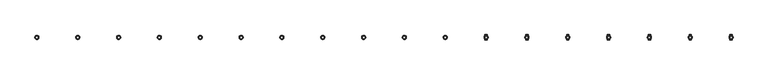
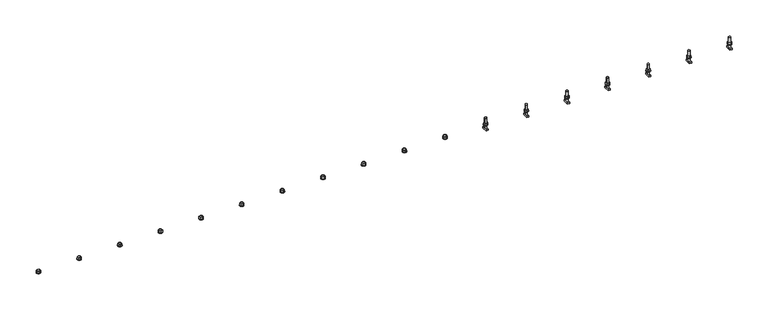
"""IFC4 building model written with IfcOpenShell, lengths in millimetres: fastener geometry, JTA-W JORDAHL® AnchorChannels : JTA-W L=6000 mm."""

from ifc_helpers import new_model, si_unit, point, frame, frame_2d, origin, place, context, project, spatial, polyline, circle_curve, trimmed, segment, composite_curve, outline, extrude, source, transform, mapped, element, save
from ifc_brep_helpers import plane_surface, cylinder_surface, advanced_brep


def fastener_eb7ec72f(model_context):
    return source(origin(), model_context, "Body", "SolidModel", [
        extrude(outline(polyline([(5617.1052632, -13.8564065), (5605.1052632, -6.9282032), (5605.1052632, 6.9282032), (5617.1052632, 13.8564065), (5629.1052632, 6.9282032), (5629.1052632, -6.9282032), (5617.1052632, -13.8564065)]), holes=[composite_curve([segment(trimmed(circle_curve(frame_2d((5617.1052632, 0.0)), 8.0), [point((5609.1052632, 0.0))], [point((5625.1052632, 0.0))], True, "CARTESIAN"), True, "CONTINUOUS"), segment(trimmed(circle_curve(frame_2d((5617.1052632, 0.0)), 8.0), [point((5625.1052632, 0.0))], [point((5609.1052632, 0.0))], True, "CARTESIAN"), True, "CONTINUOUS")], self_intersect=False)]), frame((0.0, 0.0, 18.0), z_axis=(0.0, 0.0, 1.0), x_axis=(1.0, 0.0, 0.0)), (0.0, 0.0, 1.0), 14.8),
        extrude(outline(composite_curve([segment(trimmed(circle_curve(frame_2d((5617.1052632, 0.0)), 15.0), [point((5602.1052632, 0.0))], [point((5632.1052632, 0.0))], False, "CARTESIAN"), True, "CONTINUOUS"), segment(trimmed(circle_curve(frame_2d((5617.1052632, 0.0)), 15.0), [point((5632.1052632, 0.0))], [point((5602.1052632, 0.0))], False, "CARTESIAN"), True, "CONTINUOUS")], self_intersect=False), holes=[composite_curve([segment(trimmed(circle_curve(frame_2d((5617.1052632, 0.0)), 8.5), [point((5608.6052632, 0.0))], [point((5625.6052632, 0.0))], True, "CARTESIAN"), True, "CONTINUOUS"), segment(trimmed(circle_curve(frame_2d((5617.1052632, 0.0)), 8.5), [point((5625.6052632, 0.0))], [point((5608.6052632, 0.0))], True, "CARTESIAN"), True, "CONTINUOUS")], self_intersect=False)]), frame((0.0, 0.0, 15.0), z_axis=(0.0, 0.0, 1.0), x_axis=(1.0, 0.0, 0.0)), (0.0, 0.0, 1.0), 3.0),
        extrude(outline(polyline([(5309.2105263, -13.8564065), (5297.2105263, -6.9282032), (5297.2105263, 6.9282032), (5309.2105263, 13.8564065), (5321.2105263, 6.9282032), (5321.2105263, -6.9282032), (5309.2105263, -13.8564065)]), holes=[composite_curve([segment(trimmed(circle_curve(frame_2d((5309.2105263, 0.0)), 8.0), [point((5301.2105263, 0.0))], [point((5317.2105263, 0.0))], True, "CARTESIAN"), True, "CONTINUOUS"), segment(trimmed(circle_curve(frame_2d((5309.2105263, 0.0)), 8.0), [point((5317.2105263, 0.0))], [point((5301.2105263, 0.0))], True, "CARTESIAN"), True, "CONTINUOUS")], self_intersect=False)]), frame((0.0, 0.0, 18.0), z_axis=(0.0, 0.0, 1.0), x_axis=(1.0, 0.0, 0.0)), (0.0, 0.0, 1.0), 14.8),
        extrude(outline(composite_curve([segment(trimmed(circle_curve(frame_2d((5309.2105263, 0.0)), 15.0), [point((5294.2105263, 0.0))], [point((5324.2105263, 0.0))], False, "CARTESIAN"), True, "CONTINUOUS"), segment(trimmed(circle_curve(frame_2d((5309.2105263, 0.0)), 15.0), [point((5324.2105263, 0.0))], [point((5294.2105263, 0.0))], False, "CARTESIAN"), True, "CONTINUOUS")], self_intersect=False), holes=[composite_curve([segment(trimmed(circle_curve(frame_2d((5309.2105263, 0.0)), 8.5), [point((5300.7105263, 0.0))], [point((5317.7105263, 0.0))], True, "CARTESIAN"), True, "CONTINUOUS"), segment(trimmed(circle_curve(frame_2d((5309.2105263, 0.0)), 8.5), [point((5317.7105263, 0.0))], [point((5300.7105263, 0.0))], True, "CARTESIAN"), True, "CONTINUOUS")], self_intersect=False)]), frame((0.0, 0.0, 15.0), z_axis=(0.0, 0.0, 1.0), x_axis=(1.0, 0.0, 0.0)), (0.0, 0.0, 1.0), 3.0),
        extrude(outline(polyline([(5001.3157895, -13.8564065), (4989.3157895, -6.9282032), (4989.3157895, 6.9282032), (5001.3157895, 13.8564065), (5013.3157895, 6.9282032), (5013.3157895, -6.9282032), (5001.3157895, -13.8564065)]), holes=[composite_curve([segment(trimmed(circle_curve(frame_2d((5001.3157895, 0.0)), 8.0), [point((4993.3157895, 0.0))], [point((5009.3157895, 0.0))], True, "CARTESIAN"), True, "CONTINUOUS"), segment(trimmed(circle_curve(frame_2d((5001.3157895, 0.0)), 8.0), [point((5009.3157895, 0.0))], [point((4993.3157895, 0.0))], True, "CARTESIAN"), True, "CONTINUOUS")], self_intersect=False)]), frame((0.0, 0.0, 18.0), z_axis=(0.0, 0.0, 1.0), x_axis=(1.0, 0.0, 0.0)), (0.0, 0.0, 1.0), 14.8),
        extrude(outline(composite_curve([segment(trimmed(circle_curve(frame_2d((5001.3157895, 0.0)), 15.0), [point((4986.3157895, 0.0))], [point((5016.3157895, 0.0))], False, "CARTESIAN"), True, "CONTINUOUS"), segment(trimmed(circle_curve(frame_2d((5001.3157895, 0.0)), 15.0), [point((5016.3157895, 0.0))], [point((4986.3157895, 0.0))], False, "CARTESIAN"), True, "CONTINUOUS")], self_intersect=False), holes=[composite_curve([segment(trimmed(circle_curve(frame_2d((5001.3157895, 0.0)), 8.5), [point((4992.8157895, 0.0))], [point((5009.8157895, 0.0))], True, "CARTESIAN"), True, "CONTINUOUS"), segment(trimmed(circle_curve(frame_2d((5001.3157895, 0.0)), 8.5), [point((5009.8157895, 0.0))], [point((4992.8157895, 0.0))], True, "CARTESIAN"), True, "CONTINUOUS")], self_intersect=False)]), frame((0.0, 0.0, 15.0), z_axis=(0.0, 0.0, 1.0), x_axis=(1.0, 0.0, 0.0)), (0.0, 0.0, 1.0), 3.0),
        extrude(outline(polyline([(4693.4210526, -13.8564065), (4681.4210526, -6.9282032), (4681.4210526, 6.9282032), (4693.4210526, 13.8564065), (4705.4210526, 6.9282032), (4705.4210526, -6.9282032), (4693.4210526, -13.8564065)]), holes=[composite_curve([segment(trimmed(circle_curve(frame_2d((4693.4210526, 0.0)), 8.0), [point((4685.4210526, 0.0))], [point((4701.4210526, 0.0))], True, "CARTESIAN"), True, "CONTINUOUS"), segment(trimmed(circle_curve(frame_2d((4693.4210526, 0.0)), 8.0), [point((4701.4210526, 0.0))], [point((4685.4210526, 0.0))], True, "CARTESIAN"), True, "CONTINUOUS")], self_intersect=False)]), frame((0.0, 0.0, 18.0), z_axis=(0.0, 0.0, 1.0), x_axis=(1.0, 0.0, 0.0)), (0.0, 0.0, 1.0), 14.8),
        extrude(outline(composite_curve([segment(trimmed(circle_curve(frame_2d((4693.4210526, 0.0)), 15.0), [point((4678.4210526, 0.0))], [point((4708.4210526, 0.0))], False, "CARTESIAN"), True, "CONTINUOUS"), segment(trimmed(circle_curve(frame_2d((4693.4210526, 0.0)), 15.0), [point((4708.4210526, 0.0))], [point((4678.4210526, 0.0))], False, "CARTESIAN"), True, "CONTINUOUS")], self_intersect=False), holes=[composite_curve([segment(trimmed(circle_curve(frame_2d((4693.4210526, 0.0)), 8.5), [point((4684.9210526, 0.0))], [point((4701.9210526, 0.0))], True, "CARTESIAN"), True, "CONTINUOUS"), segment(trimmed(circle_curve(frame_2d((4693.4210526, 0.0)), 8.5), [point((4701.9210526, 0.0))], [point((4684.9210526, 0.0))], True, "CARTESIAN"), True, "CONTINUOUS")], self_intersect=False)]), frame((0.0, 0.0, 15.0), z_axis=(0.0, 0.0, 1.0), x_axis=(1.0, 0.0, 0.0)), (0.0, 0.0, 1.0), 3.0),
        extrude(outline(polyline([(4385.5263158, -13.8564065), (4373.5263158, -6.9282032), (4373.5263158, 6.9282032), (4385.5263158, 13.8564065), (4397.5263158, 6.9282032), (4397.5263158, -6.9282032), (4385.5263158, -13.8564065)]), holes=[composite_curve([segment(trimmed(circle_curve(frame_2d((4385.5263158, 0.0)), 8.0), [point((4377.5263158, 0.0))], [point((4393.5263158, 0.0))], True, "CARTESIAN"), True, "CONTINUOUS"), segment(trimmed(circle_curve(frame_2d((4385.5263158, 0.0)), 8.0), [point((4393.5263158, 0.0))], [point((4377.5263158, 0.0))], True, "CARTESIAN"), True, "CONTINUOUS")], self_intersect=False)]), frame((0.0, 0.0, 18.0), z_axis=(0.0, 0.0, 1.0), x_axis=(1.0, 0.0, 0.0)), (0.0, 0.0, 1.0), 14.8),
        extrude(outline(composite_curve([segment(trimmed(circle_curve(frame_2d((4385.5263158, 0.0)), 15.0), [point((4370.5263158, 0.0))], [point((4400.5263158, 0.0))], False, "CARTESIAN"), True, "CONTINUOUS"), segment(trimmed(circle_curve(frame_2d((4385.5263158, 0.0)), 15.0), [point((4400.5263158, 0.0))], [point((4370.5263158, 0.0))], False, "CARTESIAN"), True, "CONTINUOUS")], self_intersect=False), holes=[composite_curve([segment(trimmed(circle_curve(frame_2d((4385.5263158, 0.0)), 8.5), [point((4377.0263158, 0.0))], [point((4394.0263158, 0.0))], True, "CARTESIAN"), True, "CONTINUOUS"), segment(trimmed(circle_curve(frame_2d((4385.5263158, 0.0)), 8.5), [point((4394.0263158, 0.0))], [point((4377.0263158, 0.0))], True, "CARTESIAN"), True, "CONTINUOUS")], self_intersect=False)]), frame((0.0, 0.0, 15.0), z_axis=(0.0, 0.0, 1.0), x_axis=(1.0, 0.0, 0.0)), (0.0, 0.0, 1.0), 3.0),
        extrude(outline(polyline([(4077.6315789, -13.8564065), (4065.6315789, -6.9282032), (4065.6315789, 6.9282032), (4077.6315789, 13.8564065), (4089.6315789, 6.9282032), (4089.6315789, -6.9282032), (4077.6315789, -13.8564065)]), holes=[composite_curve([segment(trimmed(circle_curve(frame_2d((4077.6315789, 0.0)), 8.0), [point((4069.6315789, 0.0))], [point((4085.6315789, 0.0))], True, "CARTESIAN"), True, "CONTINUOUS"), segment(trimmed(circle_curve(frame_2d((4077.6315789, 0.0)), 8.0), [point((4085.6315789, 0.0))], [point((4069.6315789, 0.0))], True, "CARTESIAN"), True, "CONTINUOUS")], self_intersect=False)]), frame((0.0, 0.0, 18.0), z_axis=(0.0, 0.0, 1.0), x_axis=(1.0, 0.0, 0.0)), (0.0, 0.0, 1.0), 14.8),
        extrude(outline(composite_curve([segment(trimmed(circle_curve(frame_2d((4077.6315789, 0.0)), 15.0), [point((4062.6315789, 0.0))], [point((4092.6315789, 0.0))], False, "CARTESIAN"), True, "CONTINUOUS"), segment(trimmed(circle_curve(frame_2d((4077.6315789, 0.0)), 15.0), [point((4092.6315789, 0.0))], [point((4062.6315789, 0.0))], False, "CARTESIAN"), True, "CONTINUOUS")], self_intersect=False), holes=[composite_curve([segment(trimmed(circle_curve(frame_2d((4077.6315789, 0.0)), 8.5), [point((4069.1315789, 0.0))], [point((4086.1315789, 0.0))], True, "CARTESIAN"), True, "CONTINUOUS"), segment(trimmed(circle_curve(frame_2d((4077.6315789, 0.0)), 8.5), [point((4086.1315789, 0.0))], [point((4069.1315789, 0.0))], True, "CARTESIAN"), True, "CONTINUOUS")], self_intersect=False)]), frame((0.0, 0.0, 15.0), z_axis=(0.0, 0.0, 1.0), x_axis=(1.0, 0.0, 0.0)), (0.0, 0.0, 1.0), 3.0),
        extrude(outline(polyline([(3769.7368421, -13.8564065), (3757.7368421, -6.9282032), (3757.7368421, 6.9282032), (3769.7368421, 13.8564065), (3781.7368421, 6.9282032), (3781.7368421, -6.9282032), (3769.7368421, -13.8564065)]), holes=[composite_curve([segment(trimmed(circle_curve(frame_2d((3769.7368421, 0.0)), 8.0), [point((3761.7368421, 0.0))], [point((3777.7368421, 0.0))], True, "CARTESIAN"), True, "CONTINUOUS"), segment(trimmed(circle_curve(frame_2d((3769.7368421, 0.0)), 8.0), [point((3777.7368421, 0.0))], [point((3761.7368421, 0.0))], True, "CARTESIAN"), True, "CONTINUOUS")], self_intersect=False)]), frame((0.0, 0.0, 18.0), z_axis=(0.0, 0.0, 1.0), x_axis=(1.0, 0.0, 0.0)), (0.0, 0.0, 1.0), 14.8),
        extrude(outline(composite_curve([segment(trimmed(circle_curve(frame_2d((3769.7368421, 0.0)), 15.0), [point((3754.7368421, 0.0))], [point((3784.7368421, 0.0))], False, "CARTESIAN"), True, "CONTINUOUS"), segment(trimmed(circle_curve(frame_2d((3769.7368421, 0.0)), 15.0), [point((3784.7368421, 0.0))], [point((3754.7368421, 0.0))], False, "CARTESIAN"), True, "CONTINUOUS")], self_intersect=False), holes=[composite_curve([segment(trimmed(circle_curve(frame_2d((3769.7368421, 0.0)), 8.5), [point((3761.2368421, 0.0))], [point((3778.2368421, 0.0))], True, "CARTESIAN"), True, "CONTINUOUS"), segment(trimmed(circle_curve(frame_2d((3769.7368421, 0.0)), 8.5), [point((3778.2368421, 0.0))], [point((3761.2368421, 0.0))], True, "CARTESIAN"), True, "CONTINUOUS")], self_intersect=False)]), frame((0.0, 0.0, 15.0), z_axis=(0.0, 0.0, 1.0), x_axis=(1.0, 0.0, 0.0)), (0.0, 0.0, 1.0), 3.0),
        extrude(outline(polyline([(3461.8421053, -13.8564065), (3449.8421053, -6.9282032), (3449.8421053, 6.9282032), (3461.8421053, 13.8564065), (3473.8421053, 6.9282032), (3473.8421053, -6.9282032), (3461.8421053, -13.8564065)]), holes=[composite_curve([segment(trimmed(circle_curve(frame_2d((3461.8421053, 0.0)), 8.0), [point((3453.8421053, 0.0))], [point((3469.8421053, 0.0))], True, "CARTESIAN"), True, "CONTINUOUS"), segment(trimmed(circle_curve(frame_2d((3461.8421053, 0.0)), 8.0), [point((3469.8421053, 0.0))], [point((3453.8421053, 0.0))], True, "CARTESIAN"), True, "CONTINUOUS")], self_intersect=False)]), frame((0.0, 0.0, 18.0), z_axis=(0.0, 0.0, 1.0), x_axis=(1.0, 0.0, 0.0)), (0.0, 0.0, 1.0), 14.8),
        extrude(outline(composite_curve([segment(trimmed(circle_curve(frame_2d((3461.8421053, 0.0)), 15.0), [point((3446.8421053, 0.0))], [point((3476.8421053, 0.0))], False, "CARTESIAN"), True, "CONTINUOUS"), segment(trimmed(circle_curve(frame_2d((3461.8421053, 0.0)), 15.0), [point((3476.8421053, 0.0))], [point((3446.8421053, 0.0))], False, "CARTESIAN"), True, "CONTINUOUS")], self_intersect=False), holes=[composite_curve([segment(trimmed(circle_curve(frame_2d((3461.8421053, 0.0)), 8.5), [point((3453.3421053, 0.0))], [point((3470.3421053, 0.0))], True, "CARTESIAN"), True, "CONTINUOUS"), segment(trimmed(circle_curve(frame_2d((3461.8421053, 0.0)), 8.5), [point((3470.3421053, 0.0))], [point((3453.3421053, 0.0))], True, "CARTESIAN"), True, "CONTINUOUS")], self_intersect=False)]), frame((0.0, 0.0, 15.0), z_axis=(0.0, 0.0, 1.0), x_axis=(1.0, 0.0, 0.0)), (0.0, 0.0, 1.0), 3.0),
        extrude(outline(polyline([(3153.9473684, -13.8564065), (3141.9473684, -6.9282032), (3141.9473684, 6.9282032), (3153.9473684, 13.8564065), (3165.9473684, 6.9282032), (3165.9473684, -6.9282032), (3153.9473684, -13.8564065)]), holes=[composite_curve([segment(trimmed(circle_curve(frame_2d((3153.9473684, 0.0)), 8.0), [point((3145.9473684, 0.0))], [point((3161.9473684, 0.0))], True, "CARTESIAN"), True, "CONTINUOUS"), segment(trimmed(circle_curve(frame_2d((3153.9473684, 0.0)), 8.0), [point((3161.9473684, 0.0))], [point((3145.9473684, 0.0))], True, "CARTESIAN"), True, "CONTINUOUS")], self_intersect=False)]), frame((0.0, 0.0, 18.0), z_axis=(0.0, 0.0, 1.0), x_axis=(1.0, 0.0, 0.0)), (0.0, 0.0, 1.0), 14.8),
        extrude(outline(composite_curve([segment(trimmed(circle_curve(frame_2d((3153.9473684, 0.0)), 15.0), [point((3138.9473684, 0.0))], [point((3168.9473684, 0.0))], False, "CARTESIAN"), True, "CONTINUOUS"), segment(trimmed(circle_curve(frame_2d((3153.9473684, 0.0)), 15.0), [point((3168.9473684, 0.0))], [point((3138.9473684, 0.0))], False, "CARTESIAN"), True, "CONTINUOUS")], self_intersect=False), holes=[composite_curve([segment(trimmed(circle_curve(frame_2d((3153.9473684, 0.0)), 8.5), [point((3145.4473684, 0.0))], [point((3162.4473684, 0.0))], True, "CARTESIAN"), True, "CONTINUOUS"), segment(trimmed(circle_curve(frame_2d((3153.9473684, 0.0)), 8.5), [point((3162.4473684, 0.0))], [point((3145.4473684, 0.0))], True, "CARTESIAN"), True, "CONTINUOUS")], self_intersect=False)]), frame((0.0, 0.0, 15.0), z_axis=(0.0, 0.0, 1.0), x_axis=(1.0, 0.0, 0.0)), (0.0, 0.0, 1.0), 3.0),
        extrude(outline(polyline([(2846.0526316, -13.8564065), (2834.0526316, -6.9282032), (2834.0526316, 6.9282032), (2846.0526316, 13.8564065), (2858.0526316, 6.9282032), (2858.0526316, -6.9282032), (2846.0526316, -13.8564065)]), holes=[composite_curve([segment(trimmed(circle_curve(frame_2d((2846.0526316, 0.0)), 8.0), [point((2838.0526316, 0.0))], [point((2854.0526316, 0.0))], True, "CARTESIAN"), True, "CONTINUOUS"), segment(trimmed(circle_curve(frame_2d((2846.0526316, 0.0)), 8.0), [point((2854.0526316, 0.0))], [point((2838.0526316, 0.0))], True, "CARTESIAN"), True, "CONTINUOUS")], self_intersect=False)]), frame((0.0, 0.0, 18.0), z_axis=(0.0, 0.0, 1.0), x_axis=(1.0, 0.0, 0.0)), (0.0, 0.0, 1.0), 14.8),
        extrude(outline(composite_curve([segment(trimmed(circle_curve(frame_2d((2846.0526316, 0.0)), 15.0), [point((2831.0526316, 0.0))], [point((2861.0526316, 0.0))], False, "CARTESIAN"), True, "CONTINUOUS"), segment(trimmed(circle_curve(frame_2d((2846.0526316, 0.0)), 15.0), [point((2861.0526316, 0.0))], [point((2831.0526316, 0.0))], False, "CARTESIAN"), True, "CONTINUOUS")], self_intersect=False), holes=[composite_curve([segment(trimmed(circle_curve(frame_2d((2846.0526316, 0.0)), 8.5), [point((2837.5526316, 0.0))], [point((2854.5526316, 0.0))], True, "CARTESIAN"), True, "CONTINUOUS"), segment(trimmed(circle_curve(frame_2d((2846.0526316, 0.0)), 8.5), [point((2854.5526316, 0.0))], [point((2837.5526316, 0.0))], True, "CARTESIAN"), True, "CONTINUOUS")], self_intersect=False)]), frame((0.0, 0.0, 15.0), z_axis=(0.0, 0.0, 1.0), x_axis=(1.0, 0.0, 0.0)), (0.0, 0.0, 1.0), 3.0),
        extrude(outline(polyline([(2538.1578947, -13.8564065), (2526.1578947, -6.9282032), (2526.1578947, 6.9282032), (2538.1578947, 13.8564065), (2550.1578947, 6.9282032), (2550.1578947, -6.9282032), (2538.1578947, -13.8564065)]), holes=[composite_curve([segment(trimmed(circle_curve(frame_2d((2538.1578947, 0.0)), 8.0), [point((2530.1578947, 0.0))], [point((2546.1578947, 0.0))], True, "CARTESIAN"), True, "CONTINUOUS"), segment(trimmed(circle_curve(frame_2d((2538.1578947, 0.0)), 8.0), [point((2546.1578947, 0.0))], [point((2530.1578947, 0.0))], True, "CARTESIAN"), True, "CONTINUOUS")], self_intersect=False)]), frame((0.0, 0.0, 18.0), z_axis=(0.0, 0.0, 1.0), x_axis=(1.0, 0.0, 0.0)), (0.0, 0.0, 1.0), 14.8),
        extrude(outline(composite_curve([segment(trimmed(circle_curve(frame_2d((2538.1578947, 0.0)), 15.0), [point((2523.1578947, 0.0))], [point((2553.1578947, 0.0))], False, "CARTESIAN"), True, "CONTINUOUS"), segment(trimmed(circle_curve(frame_2d((2538.1578947, 0.0)), 15.0), [point((2553.1578947, 0.0))], [point((2523.1578947, 0.0))], False, "CARTESIAN"), True, "CONTINUOUS")], self_intersect=False), holes=[composite_curve([segment(trimmed(circle_curve(frame_2d((2538.1578947, 0.0)), 8.5), [point((2529.6578947, 0.0))], [point((2546.6578947, 0.0))], True, "CARTESIAN"), True, "CONTINUOUS"), segment(trimmed(circle_curve(frame_2d((2538.1578947, 0.0)), 8.5), [point((2546.6578947, 0.0))], [point((2529.6578947, 0.0))], True, "CARTESIAN"), True, "CONTINUOUS")], self_intersect=False)]), frame((0.0, 0.0, 15.0), z_axis=(0.0, 0.0, 1.0), x_axis=(1.0, 0.0, 0.0)), (0.0, 0.0, 1.0), 3.0),
        extrude(outline(polyline([(2230.2631579, -13.8564065), (2218.2631579, -6.9282032), (2218.2631579, 6.9282032), (2230.2631579, 13.8564065), (2242.2631579, 6.9282032), (2242.2631579, -6.9282032), (2230.2631579, -13.8564065)]), holes=[composite_curve([segment(trimmed(circle_curve(frame_2d((2230.2631579, 0.0)), 8.0), [point((2222.2631579, 0.0))], [point((2238.2631579, 0.0))], True, "CARTESIAN"), True, "CONTINUOUS"), segment(trimmed(circle_curve(frame_2d((2230.2631579, 0.0)), 8.0), [point((2238.2631579, 0.0))], [point((2222.2631579, 0.0))], True, "CARTESIAN"), True, "CONTINUOUS")], self_intersect=False)]), frame((0.0, 0.0, 18.0), z_axis=(0.0, 0.0, 1.0), x_axis=(1.0, 0.0, 0.0)), (0.0, 0.0, 1.0), 14.8),
        extrude(outline(composite_curve([segment(trimmed(circle_curve(frame_2d((2230.2631579, 0.0)), 15.0), [point((2215.2631579, 0.0))], [point((2245.2631579, 0.0))], False, "CARTESIAN"), True, "CONTINUOUS"), segment(trimmed(circle_curve(frame_2d((2230.2631579, 0.0)), 15.0), [point((2245.2631579, 0.0))], [point((2215.2631579, 0.0))], False, "CARTESIAN"), True, "CONTINUOUS")], self_intersect=False), holes=[composite_curve([segment(trimmed(circle_curve(frame_2d((2230.2631579, 0.0)), 8.5), [point((2221.7631579, 0.0))], [point((2238.7631579, 0.0))], True, "CARTESIAN"), True, "CONTINUOUS"), segment(trimmed(circle_curve(frame_2d((2230.2631579, 0.0)), 8.5), [point((2238.7631579, 0.0))], [point((2221.7631579, 0.0))], True, "CARTESIAN"), True, "CONTINUOUS")], self_intersect=False)]), frame((0.0, 0.0, 15.0), z_axis=(0.0, 0.0, 1.0), x_axis=(1.0, 0.0, 0.0)), (0.0, 0.0, 1.0), 3.0),
        extrude(outline(polyline([(1922.3684211, -13.8564065), (1910.3684211, -6.9282032), (1910.3684211, 6.9282032), (1922.3684211, 13.8564065), (1934.3684211, 6.9282032), (1934.3684211, -6.9282032), (1922.3684211, -13.8564065)]), holes=[composite_curve([segment(trimmed(circle_curve(frame_2d((1922.3684211, 0.0)), 8.0), [point((1914.3684211, 0.0))], [point((1930.3684211, 0.0))], True, "CARTESIAN"), True, "CONTINUOUS"), segment(trimmed(circle_curve(frame_2d((1922.3684211, 0.0)), 8.0), [point((1930.3684211, 0.0))], [point((1914.3684211, 0.0))], True, "CARTESIAN"), True, "CONTINUOUS")], self_intersect=False)]), frame((0.0, 0.0, 18.0), z_axis=(0.0, 0.0, 1.0), x_axis=(1.0, 0.0, 0.0)), (0.0, 0.0, 1.0), 14.8),
        extrude(outline(composite_curve([segment(trimmed(circle_curve(frame_2d((1922.3684211, 0.0)), 15.0), [point((1907.3684211, 0.0))], [point((1937.3684211, 0.0))], False, "CARTESIAN"), True, "CONTINUOUS"), segment(trimmed(circle_curve(frame_2d((1922.3684211, 0.0)), 15.0), [point((1937.3684211, 0.0))], [point((1907.3684211, 0.0))], False, "CARTESIAN"), True, "CONTINUOUS")], self_intersect=False), holes=[composite_curve([segment(trimmed(circle_curve(frame_2d((1922.3684211, 0.0)), 8.5), [point((1913.8684211, 0.0))], [point((1930.8684211, 0.0))], True, "CARTESIAN"), True, "CONTINUOUS"), segment(trimmed(circle_curve(frame_2d((1922.3684211, 0.0)), 8.5), [point((1930.8684211, 0.0))], [point((1913.8684211, 0.0))], True, "CARTESIAN"), True, "CONTINUOUS")], self_intersect=False)]), frame((0.0, 0.0, 15.0), z_axis=(0.0, 0.0, 1.0), x_axis=(1.0, 0.0, 0.0)), (0.0, 0.0, 1.0), 3.0),
        extrude(outline(polyline([(1614.4736842, -13.8564065), (1602.4736842, -6.9282032), (1602.4736842, 6.9282032), (1614.4736842, 13.8564065), (1626.4736842, 6.9282032), (1626.4736842, -6.9282032), (1614.4736842, -13.8564065)]), holes=[composite_curve([segment(trimmed(circle_curve(frame_2d((1614.4736842, 0.0)), 8.0), [point((1606.4736842, 0.0))], [point((1622.4736842, 0.0))], True, "CARTESIAN"), True, "CONTINUOUS"), segment(trimmed(circle_curve(frame_2d((1614.4736842, 0.0)), 8.0), [point((1622.4736842, 0.0))], [point((1606.4736842, 0.0))], True, "CARTESIAN"), True, "CONTINUOUS")], self_intersect=False)]), frame((0.0, 0.0, 18.0), z_axis=(0.0, 0.0, 1.0), x_axis=(1.0, 0.0, 0.0)), (0.0, 0.0, 1.0), 14.8),
        extrude(outline(composite_curve([segment(trimmed(circle_curve(frame_2d((1614.4736842, 0.0)), 15.0), [point((1599.4736842, 0.0))], [point((1629.4736842, 0.0))], False, "CARTESIAN"), True, "CONTINUOUS"), segment(trimmed(circle_curve(frame_2d((1614.4736842, 0.0)), 15.0), [point((1629.4736842, 0.0))], [point((1599.4736842, 0.0))], False, "CARTESIAN"), True, "CONTINUOUS")], self_intersect=False), holes=[composite_curve([segment(trimmed(circle_curve(frame_2d((1614.4736842, 0.0)), 8.5), [point((1605.9736842, 0.0))], [point((1622.9736842, 0.0))], True, "CARTESIAN"), True, "CONTINUOUS"), segment(trimmed(circle_curve(frame_2d((1614.4736842, 0.0)), 8.5), [point((1622.9736842, 0.0))], [point((1605.9736842, 0.0))], True, "CARTESIAN"), True, "CONTINUOUS")], self_intersect=False)]), frame((0.0, 0.0, 15.0), z_axis=(0.0, 0.0, 1.0), x_axis=(1.0, 0.0, 0.0)), (0.0, 0.0, 1.0), 3.0),
        extrude(outline(polyline([(1306.5789474, -13.8564065), (1294.5789474, -6.9282032), (1294.5789474, 6.9282032), (1306.5789474, 13.8564065), (1318.5789474, 6.9282032), (1318.5789474, -6.9282032), (1306.5789474, -13.8564065)]), holes=[composite_curve([segment(trimmed(circle_curve(frame_2d((1306.5789474, 0.0)), 8.0), [point((1298.5789474, 0.0))], [point((1314.5789474, 0.0))], True, "CARTESIAN"), True, "CONTINUOUS"), segment(trimmed(circle_curve(frame_2d((1306.5789474, 0.0)), 8.0), [point((1314.5789474, 0.0))], [point((1298.5789474, 0.0))], True, "CARTESIAN"), True, "CONTINUOUS")], self_intersect=False)]), frame((0.0, 0.0, 18.0), z_axis=(0.0, 0.0, 1.0), x_axis=(1.0, 0.0, 0.0)), (0.0, 0.0, 1.0), 14.8),
        extrude(outline(composite_curve([segment(trimmed(circle_curve(frame_2d((1306.5789474, 0.0)), 15.0), [point((1291.5789474, 0.0))], [point((1321.5789474, 0.0))], False, "CARTESIAN"), True, "CONTINUOUS"), segment(trimmed(circle_curve(frame_2d((1306.5789474, 0.0)), 15.0), [point((1321.5789474, 0.0))], [point((1291.5789474, 0.0))], False, "CARTESIAN"), True, "CONTINUOUS")], self_intersect=False), holes=[composite_curve([segment(trimmed(circle_curve(frame_2d((1306.5789474, 0.0)), 8.5), [point((1298.0789474, 0.0))], [point((1315.0789474, 0.0))], True, "CARTESIAN"), True, "CONTINUOUS"), segment(trimmed(circle_curve(frame_2d((1306.5789474, 0.0)), 8.5), [point((1315.0789474, 0.0))], [point((1298.0789474, 0.0))], True, "CARTESIAN"), True, "CONTINUOUS")], self_intersect=False)]), frame((0.0, 0.0, 15.0), z_axis=(0.0, 0.0, 1.0), x_axis=(1.0, 0.0, 0.0)), (0.0, 0.0, 1.0), 3.0),
        extrude(outline(polyline([(998.6842105, -13.8564065), (986.6842105, -6.9282032), (986.6842105, 6.9282032), (998.6842105, 13.8564065), (1010.6842105, 6.9282032), (1010.6842105, -6.9282032), (998.6842105, -13.8564065)]), holes=[composite_curve([segment(trimmed(circle_curve(frame_2d((998.6842105, 0.0)), 8.0), [point((990.6842105, 0.0))], [point((1006.6842105, 0.0))], True, "CARTESIAN"), True, "CONTINUOUS"), segment(trimmed(circle_curve(frame_2d((998.6842105, 0.0)), 8.0), [point((1006.6842105, 0.0))], [point((990.6842105, 0.0))], True, "CARTESIAN"), True, "CONTINUOUS")], self_intersect=False)]), frame((0.0, 0.0, 18.0), z_axis=(0.0, 0.0, 1.0), x_axis=(1.0, 0.0, 0.0)), (0.0, 0.0, 1.0), 14.8),
        extrude(outline(composite_curve([segment(trimmed(circle_curve(frame_2d((998.6842105, 0.0)), 15.0), [point((983.6842105, 0.0))], [point((1013.6842105, 0.0))], False, "CARTESIAN"), True, "CONTINUOUS"), segment(trimmed(circle_curve(frame_2d((998.6842105, 0.0)), 15.0), [point((1013.6842105, 0.0))], [point((983.6842105, 0.0))], False, "CARTESIAN"), True, "CONTINUOUS")], self_intersect=False), holes=[composite_curve([segment(trimmed(circle_curve(frame_2d((998.6842105, 0.0)), 8.5), [point((990.1842105, 0.0))], [point((1007.1842105, 0.0))], True, "CARTESIAN"), True, "CONTINUOUS"), segment(trimmed(circle_curve(frame_2d((998.6842105, 0.0)), 8.5), [point((1007.1842105, 0.0))], [point((990.1842105, 0.0))], True, "CARTESIAN"), True, "CONTINUOUS")], self_intersect=False)]), frame((0.0, 0.0, 15.0), z_axis=(0.0, 0.0, 1.0), x_axis=(1.0, 0.0, 0.0)), (0.0, 0.0, 1.0), 3.0),
        extrude(outline(polyline([(690.7894737, -13.8564065), (678.7894737, -6.9282032), (678.7894737, 6.9282032), (690.7894737, 13.8564065), (702.7894737, 6.9282032), (702.7894737, -6.9282032), (690.7894737, -13.8564065)]), holes=[composite_curve([segment(trimmed(circle_curve(frame_2d((690.7894737, 0.0)), 8.0), [point((682.7894737, 0.0))], [point((698.7894737, 0.0))], True, "CARTESIAN"), True, "CONTINUOUS"), segment(trimmed(circle_curve(frame_2d((690.7894737, 0.0)), 8.0), [point((698.7894737, 0.0))], [point((682.7894737, 0.0))], True, "CARTESIAN"), True, "CONTINUOUS")], self_intersect=False)]), frame((0.0, 0.0, 18.0), z_axis=(0.0, 0.0, 1.0), x_axis=(1.0, 0.0, 0.0)), (0.0, 0.0, 1.0), 14.8),
        extrude(outline(composite_curve([segment(trimmed(circle_curve(frame_2d((690.7894737, 0.0)), 15.0), [point((675.7894737, 0.0))], [point((705.7894737, 0.0))], False, "CARTESIAN"), True, "CONTINUOUS"), segment(trimmed(circle_curve(frame_2d((690.7894737, 0.0)), 15.0), [point((705.7894737, 0.0))], [point((675.7894737, 0.0))], False, "CARTESIAN"), True, "CONTINUOUS")], self_intersect=False), holes=[composite_curve([segment(trimmed(circle_curve(frame_2d((690.7894737, 0.0)), 8.5), [point((682.2894737, 0.0))], [point((699.2894737, 0.0))], True, "CARTESIAN"), True, "CONTINUOUS"), segment(trimmed(circle_curve(frame_2d((690.7894737, 0.0)), 8.5), [point((699.2894737, 0.0))], [point((682.2894737, 0.0))], True, "CARTESIAN"), True, "CONTINUOUS")], self_intersect=False)]), frame((0.0, 0.0, 15.0), z_axis=(0.0, 0.0, 1.0), x_axis=(1.0, 0.0, 0.0)), (0.0, 0.0, 1.0), 3.0),
        extrude(outline(polyline([(382.8947368, -13.8564065), (370.8947368, -6.9282032), (370.8947368, 6.9282032), (382.8947368, 13.8564065), (394.8947368, 6.9282032), (394.8947368, -6.9282032), (382.8947368, -13.8564065)]), holes=[composite_curve([segment(trimmed(circle_curve(frame_2d((382.8947368, 0.0)), 8.0), [point((374.8947368, 0.0))], [point((390.8947368, 0.0))], True, "CARTESIAN"), True, "CONTINUOUS"), segment(trimmed(circle_curve(frame_2d((382.8947368, 0.0)), 8.0), [point((390.8947368, 0.0))], [point((374.8947368, 0.0))], True, "CARTESIAN"), True, "CONTINUOUS")], self_intersect=False)]), frame((0.0, 0.0, 18.0), z_axis=(0.0, 0.0, 1.0), x_axis=(1.0, 0.0, 0.0)), (0.0, 0.0, 1.0), 14.8),
        extrude(outline(composite_curve([segment(trimmed(circle_curve(frame_2d((382.8947368, 0.0)), 15.0), [point((367.8947368, 0.0))], [point((397.8947368, 0.0))], False, "CARTESIAN"), True, "CONTINUOUS"), segment(trimmed(circle_curve(frame_2d((382.8947368, 0.0)), 15.0), [point((397.8947368, 0.0))], [point((367.8947368, 0.0))], False, "CARTESIAN"), True, "CONTINUOUS")], self_intersect=False), holes=[composite_curve([segment(trimmed(circle_curve(frame_2d((382.8947368, 0.0)), 8.5), [point((374.3947368, 0.0))], [point((391.3947368, 0.0))], True, "CARTESIAN"), True, "CONTINUOUS"), segment(trimmed(circle_curve(frame_2d((382.8947368, 0.0)), 8.5), [point((391.3947368, 0.0))], [point((374.3947368, 0.0))], True, "CARTESIAN"), True, "CONTINUOUS")], self_intersect=False)]), frame((0.0, 0.0, 15.0), z_axis=(0.0, 0.0, 1.0), x_axis=(1.0, 0.0, 0.0)), (0.0, 0.0, 1.0), 3.0),
        advanced_brep(
        [(5625.6052632, -20.7, -10.0), (5625.6052632, -20.7, -21.0), (5625.6052632, 20.7, -21.0), (5625.6052632, 20.7, -10.0), (5608.6052632, -20.7, -10.0), (5608.6052632, 20.7, -10.0), (5608.6052632, 20.7, -21.0), (5608.6052632, -20.7, -21.0), (5625.1052632, 0.0, -10.0), (5609.1052632, 0.0, -10.0), (5609.1052632, 0.0, 70.0), (5625.1052632, 0.0, 70.0)],
        [
            (0, 1),
            (1, 2),
            (2, 3),
            (3, 0),
            (4, 5),
            (5, 6),
            (6, 7),
            (7, 4),
            (3, 5),
            (4, 0),
            (8, 9, circle_curve(frame((5617.1052632, 0.0, -10.0), z_axis=(0.0, 0.0, -1.0), x_axis=(1.0, 0.0, 0.0)), 8.0)),
            (9, 8, circle_curve(frame((5617.1052632, 0.0, -10.0), z_axis=(0.0, 0.0, -1.0), x_axis=(1.0, 0.0, 0.0)), 8.0)),
            (2, 6),
            (1, 7),
            (10, 11, circle_curve(frame((5617.1052632, 0.0, 70.0), z_axis=(0.0, 0.0, 1.0), x_axis=(1.0, 0.0, 0.0)), 8.0)),
            (11, 10, circle_curve(frame((5617.1052632, 0.0, 70.0), z_axis=(0.0, 0.0, 1.0), x_axis=(1.0, 0.0, 0.0)), 8.0)),
            (11, 8),
            (9, 10),
        ],
        [
            plane_surface(frame((5625.6052632, 20.7, -10.0), z_axis=(1.0, 0.0, 0.0), x_axis=(0.0, 1.0, 0.0))),
            plane_surface(frame((5608.6052632, 20.7, -10.0), z_axis=(-1.0, 0.0, 0.0), x_axis=(0.0, -1.0, 0.0))),
            plane_surface(frame((5625.6052632, -20.7, -10.0), z_axis=(0.0, 0.0, 1.0), x_axis=(-1.0, 0.0, 0.0))),
            plane_surface(frame((5625.6052632, 20.7, -10.0), z_axis=(0.0, 1.0, 0.0), x_axis=(-1.0, 0.0, 0.0))),
            plane_surface(frame((5625.6052632, 20.7, -21.0), z_axis=(0.0, 0.0, -1.0), x_axis=(-1.0, 0.0, 0.0))),
            plane_surface(frame((5625.6052632, -20.7, -21.0), z_axis=(0.0, -1.0, 0.0), x_axis=(-1.0, 0.0, 0.0))),
            plane_surface(frame((5625.1052632, 0.0, 70.0), z_axis=(0.0, 0.0, 1.0), x_axis=(0.0, -1.0, 0.0))),
            cylinder_surface(frame((5617.1052632, 0.0, -10.0), z_axis=(0.0, 0.0, 1.0), x_axis=(1.0, 0.0, 0.0)), 8.0),
        ],
        [
            (0, [[1, 2, 3, 4]]),
            (1, [[5, 6, 7, 8]]),
            (2, [[9, -5, 10, -4], [11, 12]]),
            (3, [[13, -6, -9, -3]]),
            (4, [[14, -7, -13, -2]]),
            (5, [[-10, -8, -14, -1]]),
            (6, [[15, 16]]),
            (7, [[17, -12, 18, -16]]),
            (7, [[-18, -11, -17, -15]]),
        ],
    ),
        advanced_brep(
        [(5317.7105263, -20.7, -10.0), (5317.7105263, -20.7, -21.0), (5317.7105263, 20.7, -21.0), (5317.7105263, 20.7, -10.0), (5300.7105263, -20.7, -10.0), (5300.7105263, 20.7, -10.0), (5300.7105263, 20.7, -21.0), (5300.7105263, -20.7, -21.0), (5317.2105263, 0.0, -10.0), (5301.2105263, 0.0, -10.0), (5301.2105263, 0.0, 70.0), (5317.2105263, 0.0, 70.0)],
        [
            (0, 1),
            (1, 2),
            (2, 3),
            (3, 0),
            (4, 5),
            (5, 6),
            (6, 7),
            (7, 4),
            (3, 5),
            (4, 0),
            (8, 9, circle_curve(frame((5309.2105263, 0.0, -10.0), z_axis=(0.0, 0.0, -1.0), x_axis=(1.0, 0.0, 0.0)), 8.0)),
            (9, 8, circle_curve(frame((5309.2105263, 0.0, -10.0), z_axis=(0.0, 0.0, -1.0), x_axis=(1.0, 0.0, 0.0)), 8.0)),
            (2, 6),
            (1, 7),
            (10, 11, circle_curve(frame((5309.2105263, 0.0, 70.0), z_axis=(0.0, 0.0, 1.0), x_axis=(1.0, 0.0, 0.0)), 8.0)),
            (11, 10, circle_curve(frame((5309.2105263, 0.0, 70.0), z_axis=(0.0, 0.0, 1.0), x_axis=(1.0, 0.0, 0.0)), 8.0)),
            (11, 8),
            (9, 10),
        ],
        [
            plane_surface(frame((5317.7105263, 20.7, -10.0), z_axis=(1.0, 0.0, 0.0), x_axis=(0.0, 1.0, 0.0))),
            plane_surface(frame((5300.7105263, 20.7, -10.0), z_axis=(-1.0, 0.0, 0.0), x_axis=(0.0, -1.0, 0.0))),
            plane_surface(frame((5317.7105263, -20.7, -10.0), z_axis=(0.0, 0.0, 1.0), x_axis=(-1.0, 0.0, 0.0))),
            plane_surface(frame((5317.7105263, 20.7, -10.0), z_axis=(0.0, 1.0, 0.0), x_axis=(-1.0, 0.0, 0.0))),
            plane_surface(frame((5317.7105263, 20.7, -21.0), z_axis=(0.0, 0.0, -1.0), x_axis=(-1.0, 0.0, 0.0))),
            plane_surface(frame((5317.7105263, -20.7, -21.0), z_axis=(0.0, -1.0, 0.0), x_axis=(-1.0, 0.0, 0.0))),
            plane_surface(frame((5317.2105263, 0.0, 70.0), z_axis=(0.0, 0.0, 1.0), x_axis=(0.0, -1.0, 0.0))),
            cylinder_surface(frame((5309.2105263, 0.0, -10.0), z_axis=(0.0, 0.0, 1.0), x_axis=(1.0, 0.0, 0.0)), 8.0),
        ],
        [
            (0, [[1, 2, 3, 4]]),
            (1, [[5, 6, 7, 8]]),
            (2, [[9, -5, 10, -4], [11, 12]]),
            (3, [[13, -6, -9, -3]]),
            (4, [[14, -7, -13, -2]]),
            (5, [[-10, -8, -14, -1]]),
            (6, [[15, 16]]),
            (7, [[17, -12, 18, -16]]),
            (7, [[-18, -11, -17, -15]]),
        ],
    ),
        advanced_brep(
        [(5009.8157895, -20.7, -10.0), (5009.8157895, -20.7, -21.0), (5009.8157895, 20.7, -21.0), (5009.8157895, 20.7, -10.0), (4992.8157895, -20.7, -10.0), (4992.8157895, 20.7, -10.0), (4992.8157895, 20.7, -21.0), (4992.8157895, -20.7, -21.0), (5009.3157895, 0.0, -10.0), (4993.3157895, 0.0, -10.0), (4993.3157895, 0.0, 70.0), (5009.3157895, 0.0, 70.0)],
        [
            (0, 1),
            (1, 2),
            (2, 3),
            (3, 0),
            (4, 5),
            (5, 6),
            (6, 7),
            (7, 4),
            (3, 5),
            (4, 0),
            (8, 9, circle_curve(frame((5001.3157895, 0.0, -10.0), z_axis=(0.0, 0.0, -1.0), x_axis=(1.0, 0.0, 0.0)), 8.0)),
            (9, 8, circle_curve(frame((5001.3157895, 0.0, -10.0), z_axis=(0.0, 0.0, -1.0), x_axis=(1.0, 0.0, 0.0)), 8.0)),
            (2, 6),
            (1, 7),
            (10, 11, circle_curve(frame((5001.3157895, 0.0, 70.0), z_axis=(0.0, 0.0, 1.0), x_axis=(1.0, 0.0, 0.0)), 8.0)),
            (11, 10, circle_curve(frame((5001.3157895, 0.0, 70.0), z_axis=(0.0, 0.0, 1.0), x_axis=(1.0, 0.0, 0.0)), 8.0)),
            (11, 8),
            (9, 10),
        ],
        [
            plane_surface(frame((5009.8157895, 20.7, -10.0), z_axis=(1.0, 0.0, 0.0), x_axis=(0.0, 1.0, 0.0))),
            plane_surface(frame((4992.8157895, 20.7, -10.0), z_axis=(-1.0, 0.0, 0.0), x_axis=(0.0, -1.0, 0.0))),
            plane_surface(frame((5009.8157895, -20.7, -10.0), z_axis=(0.0, 0.0, 1.0), x_axis=(-1.0, 0.0, 0.0))),
            plane_surface(frame((5009.8157895, 20.7, -10.0), z_axis=(0.0, 1.0, 0.0), x_axis=(-1.0, 0.0, 0.0))),
            plane_surface(frame((5009.8157895, 20.7, -21.0), z_axis=(0.0, 0.0, -1.0), x_axis=(-1.0, 0.0, 0.0))),
            plane_surface(frame((5009.8157895, -20.7, -21.0), z_axis=(0.0, -1.0, 0.0), x_axis=(-1.0, 0.0, 0.0))),
            plane_surface(frame((5009.3157895, 0.0, 70.0), z_axis=(0.0, 0.0, 1.0), x_axis=(0.0, -1.0, 0.0))),
            cylinder_surface(frame((5001.3157895, 0.0, -10.0), z_axis=(0.0, 0.0, 1.0), x_axis=(1.0, 0.0, 0.0)), 8.0),
        ],
        [
            (0, [[1, 2, 3, 4]]),
            (1, [[5, 6, 7, 8]]),
            (2, [[9, -5, 10, -4], [11, 12]]),
            (3, [[13, -6, -9, -3]]),
            (4, [[14, -7, -13, -2]]),
            (5, [[-10, -8, -14, -1]]),
            (6, [[15, 16]]),
            (7, [[17, -12, 18, -16]]),
            (7, [[-18, -11, -17, -15]]),
        ],
    ),
        advanced_brep(
        [(4701.9210526, -20.7, -10.0), (4701.9210526, -20.7, -21.0), (4701.9210526, 20.7, -21.0), (4701.9210526, 20.7, -10.0), (4684.9210526, -20.7, -10.0), (4684.9210526, 20.7, -10.0), (4684.9210526, 20.7, -21.0), (4684.9210526, -20.7, -21.0), (4701.4210526, 0.0, -10.0), (4685.4210526, 0.0, -10.0), (4685.4210526, 0.0, 70.0), (4701.4210526, 0.0, 70.0)],
        [
            (0, 1),
            (1, 2),
            (2, 3),
            (3, 0),
            (4, 5),
            (5, 6),
            (6, 7),
            (7, 4),
            (3, 5),
            (4, 0),
            (8, 9, circle_curve(frame((4693.4210526, 0.0, -10.0), z_axis=(0.0, 0.0, -1.0), x_axis=(1.0, 0.0, 0.0)), 8.0)),
            (9, 8, circle_curve(frame((4693.4210526, 0.0, -10.0), z_axis=(0.0, 0.0, -1.0), x_axis=(1.0, 0.0, 0.0)), 8.0)),
            (2, 6),
            (1, 7),
            (10, 11, circle_curve(frame((4693.4210526, 0.0, 70.0), z_axis=(0.0, 0.0, 1.0), x_axis=(1.0, 0.0, 0.0)), 8.0)),
            (11, 10, circle_curve(frame((4693.4210526, 0.0, 70.0), z_axis=(0.0, 0.0, 1.0), x_axis=(1.0, 0.0, 0.0)), 8.0)),
            (11, 8),
            (9, 10),
        ],
        [
            plane_surface(frame((4701.9210526, 20.7, -10.0), z_axis=(1.0, 0.0, 0.0), x_axis=(0.0, 1.0, 0.0))),
            plane_surface(frame((4684.9210526, 20.7, -10.0), z_axis=(-1.0, 0.0, 0.0), x_axis=(0.0, -1.0, 0.0))),
            plane_surface(frame((4701.9210526, -20.7, -10.0), z_axis=(0.0, 0.0, 1.0), x_axis=(-1.0, 0.0, 0.0))),
            plane_surface(frame((4701.9210526, 20.7, -10.0), z_axis=(0.0, 1.0, 0.0), x_axis=(-1.0, 0.0, 0.0))),
            plane_surface(frame((4701.9210526, 20.7, -21.0), z_axis=(0.0, 0.0, -1.0), x_axis=(-1.0, 0.0, 0.0))),
            plane_surface(frame((4701.9210526, -20.7, -21.0), z_axis=(0.0, -1.0, 0.0), x_axis=(-1.0, 0.0, 0.0))),
            plane_surface(frame((4701.4210526, 0.0, 70.0), z_axis=(0.0, 0.0, 1.0), x_axis=(0.0, -1.0, 0.0))),
            cylinder_surface(frame((4693.4210526, 0.0, -10.0), z_axis=(0.0, 0.0, 1.0), x_axis=(1.0, 0.0, 0.0)), 8.0),
        ],
        [
            (0, [[1, 2, 3, 4]]),
            (1, [[5, 6, 7, 8]]),
            (2, [[9, -5, 10, -4], [11, 12]]),
            (3, [[13, -6, -9, -3]]),
            (4, [[14, -7, -13, -2]]),
            (5, [[-10, -8, -14, -1]]),
            (6, [[15, 16]]),
            (7, [[17, -12, 18, -16]]),
            (7, [[-18, -11, -17, -15]]),
        ],
    ),
        advanced_brep(
        [(4394.0263158, -20.7, -10.0), (4394.0263158, -20.7, -21.0), (4394.0263158, 20.7, -21.0), (4394.0263158, 20.7, -10.0), (4377.0263158, -20.7, -10.0), (4377.0263158, 20.7, -10.0), (4377.0263158, 20.7, -21.0), (4377.0263158, -20.7, -21.0), (4393.5263158, 0.0, -10.0), (4377.5263158, 0.0, -10.0), (4377.5263158, 0.0, 70.0), (4393.5263158, 0.0, 70.0)],
        [
            (0, 1),
            (1, 2),
            (2, 3),
            (3, 0),
            (4, 5),
            (5, 6),
            (6, 7),
            (7, 4),
            (3, 5),
            (4, 0),
            (8, 9, circle_curve(frame((4385.5263158, 0.0, -10.0), z_axis=(0.0, 0.0, -1.0), x_axis=(1.0, 0.0, 0.0)), 8.0)),
            (9, 8, circle_curve(frame((4385.5263158, 0.0, -10.0), z_axis=(0.0, 0.0, -1.0), x_axis=(1.0, 0.0, 0.0)), 8.0)),
            (2, 6),
            (1, 7),
            (10, 11, circle_curve(frame((4385.5263158, 0.0, 70.0), z_axis=(0.0, 0.0, 1.0), x_axis=(1.0, 0.0, 0.0)), 8.0)),
            (11, 10, circle_curve(frame((4385.5263158, 0.0, 70.0), z_axis=(0.0, 0.0, 1.0), x_axis=(1.0, 0.0, 0.0)), 8.0)),
            (11, 8),
            (9, 10),
        ],
        [
            plane_surface(frame((4394.0263158, 20.7, -10.0), z_axis=(1.0, 0.0, 0.0), x_axis=(0.0, 1.0, 0.0))),
            plane_surface(frame((4377.0263158, 20.7, -10.0), z_axis=(-1.0, 0.0, 0.0), x_axis=(0.0, -1.0, 0.0))),
            plane_surface(frame((4394.0263158, -20.7, -10.0), z_axis=(0.0, 0.0, 1.0), x_axis=(-1.0, 0.0, 0.0))),
            plane_surface(frame((4394.0263158, 20.7, -10.0), z_axis=(0.0, 1.0, 0.0), x_axis=(-1.0, 0.0, 0.0))),
            plane_surface(frame((4394.0263158, 20.7, -21.0), z_axis=(0.0, 0.0, -1.0), x_axis=(-1.0, 0.0, 0.0))),
            plane_surface(frame((4394.0263158, -20.7, -21.0), z_axis=(0.0, -1.0, 0.0), x_axis=(-1.0, 0.0, 0.0))),
            plane_surface(frame((4393.5263158, 0.0, 70.0), z_axis=(0.0, 0.0, 1.0), x_axis=(0.0, -1.0, 0.0))),
            cylinder_surface(frame((4385.5263158, 0.0, -10.0), z_axis=(0.0, 0.0, 1.0), x_axis=(1.0, 0.0, 0.0)), 8.0),
        ],
        [
            (0, [[1, 2, 3, 4]]),
            (1, [[5, 6, 7, 8]]),
            (2, [[9, -5, 10, -4], [11, 12]]),
            (3, [[13, -6, -9, -3]]),
            (4, [[14, -7, -13, -2]]),
            (5, [[-10, -8, -14, -1]]),
            (6, [[15, 16]]),
            (7, [[17, -12, 18, -16]]),
            (7, [[-18, -11, -17, -15]]),
        ],
    ),
        advanced_brep(
        [(4086.1315789, -20.7, -10.0), (4086.1315789, -20.7, -21.0), (4086.1315789, 20.7, -21.0), (4086.1315789, 20.7, -10.0), (4069.1315789, -20.7, -10.0), (4069.1315789, 20.7, -10.0), (4069.1315789, 20.7, -21.0), (4069.1315789, -20.7, -21.0), (4085.6315789, 0.0, -10.0), (4069.6315789, 0.0, -10.0), (4069.6315789, 0.0, 70.0), (4085.6315789, 0.0, 70.0)],
        [
            (0, 1),
            (1, 2),
            (2, 3),
            (3, 0),
            (4, 5),
            (5, 6),
            (6, 7),
            (7, 4),
            (3, 5),
            (4, 0),
            (8, 9, circle_curve(frame((4077.6315789, 0.0, -10.0), z_axis=(0.0, 0.0, -1.0), x_axis=(1.0, 0.0, 0.0)), 8.0)),
            (9, 8, circle_curve(frame((4077.6315789, 0.0, -10.0), z_axis=(0.0, 0.0, -1.0), x_axis=(1.0, 0.0, 0.0)), 8.0)),
            (2, 6),
            (1, 7),
            (10, 11, circle_curve(frame((4077.6315789, 0.0, 70.0), z_axis=(0.0, 0.0, 1.0), x_axis=(1.0, 0.0, 0.0)), 8.0)),
            (11, 10, circle_curve(frame((4077.6315789, 0.0, 70.0), z_axis=(0.0, 0.0, 1.0), x_axis=(1.0, 0.0, 0.0)), 8.0)),
            (11, 8),
            (9, 10),
        ],
        [
            plane_surface(frame((4086.1315789, 20.7, -10.0), z_axis=(1.0, 0.0, 0.0), x_axis=(0.0, 1.0, 0.0))),
            plane_surface(frame((4069.1315789, 20.7, -10.0), z_axis=(-1.0, 0.0, 0.0), x_axis=(0.0, -1.0, 0.0))),
            plane_surface(frame((4086.1315789, -20.7, -10.0), z_axis=(0.0, 0.0, 1.0), x_axis=(-1.0, 0.0, 0.0))),
            plane_surface(frame((4086.1315789, 20.7, -10.0), z_axis=(0.0, 1.0, 0.0), x_axis=(-1.0, 0.0, 0.0))),
            plane_surface(frame((4086.1315789, 20.7, -21.0), z_axis=(0.0, 0.0, -1.0), x_axis=(-1.0, 0.0, 0.0))),
            plane_surface(frame((4086.1315789, -20.7, -21.0), z_axis=(0.0, -1.0, 0.0), x_axis=(-1.0, 0.0, 0.0))),
            plane_surface(frame((4085.6315789, 0.0, 70.0), z_axis=(0.0, 0.0, 1.0), x_axis=(0.0, -1.0, 0.0))),
            cylinder_surface(frame((4077.6315789, 0.0, -10.0), z_axis=(0.0, 0.0, 1.0), x_axis=(1.0, 0.0, 0.0)), 8.0),
        ],
        [
            (0, [[1, 2, 3, 4]]),
            (1, [[5, 6, 7, 8]]),
            (2, [[9, -5, 10, -4], [11, 12]]),
            (3, [[13, -6, -9, -3]]),
            (4, [[14, -7, -13, -2]]),
            (5, [[-10, -8, -14, -1]]),
            (6, [[15, 16]]),
            (7, [[17, -12, 18, -16]]),
            (7, [[-18, -11, -17, -15]]),
        ],
    ),
        advanced_brep(
        [(3778.2368421, -20.7, -10.0), (3778.2368421, -20.7, -21.0), (3778.2368421, 20.7, -21.0), (3778.2368421, 20.7, -10.0), (3761.2368421, -20.7, -10.0), (3761.2368421, 20.7, -10.0), (3761.2368421, 20.7, -21.0), (3761.2368421, -20.7, -21.0), (3777.7368421, 0.0, -10.0), (3761.7368421, 0.0, -10.0), (3761.7368421, 0.0, 70.0), (3777.7368421, 0.0, 70.0)],
        [
            (0, 1),
            (1, 2),
            (2, 3),
            (3, 0),
            (4, 5),
            (5, 6),
            (6, 7),
            (7, 4),
            (3, 5),
            (4, 0),
            (8, 9, circle_curve(frame((3769.7368421, 0.0, -10.0), z_axis=(0.0, 0.0, -1.0), x_axis=(1.0, 0.0, 0.0)), 8.0)),
            (9, 8, circle_curve(frame((3769.7368421, 0.0, -10.0), z_axis=(0.0, 0.0, -1.0), x_axis=(1.0, 0.0, 0.0)), 8.0)),
            (2, 6),
            (1, 7),
            (10, 11, circle_curve(frame((3769.7368421, 0.0, 70.0), z_axis=(0.0, 0.0, 1.0), x_axis=(1.0, 0.0, 0.0)), 8.0)),
            (11, 10, circle_curve(frame((3769.7368421, 0.0, 70.0), z_axis=(0.0, 0.0, 1.0), x_axis=(1.0, 0.0, 0.0)), 8.0)),
            (11, 8),
            (9, 10),
        ],
        [
            plane_surface(frame((3778.2368421, 20.7, -10.0), z_axis=(1.0, 0.0, 0.0), x_axis=(0.0, 1.0, 0.0))),
            plane_surface(frame((3761.2368421, 20.7, -10.0), z_axis=(-1.0, 0.0, 0.0), x_axis=(0.0, -1.0, 0.0))),
            plane_surface(frame((3778.2368421, -20.7, -10.0), z_axis=(0.0, 0.0, 1.0), x_axis=(-1.0, 0.0, 0.0))),
            plane_surface(frame((3778.2368421, 20.7, -10.0), z_axis=(0.0, 1.0, 0.0), x_axis=(-1.0, 0.0, 0.0))),
            plane_surface(frame((3778.2368421, 20.7, -21.0), z_axis=(0.0, 0.0, -1.0), x_axis=(-1.0, 0.0, 0.0))),
            plane_surface(frame((3778.2368421, -20.7, -21.0), z_axis=(0.0, -1.0, 0.0), x_axis=(-1.0, 0.0, 0.0))),
            plane_surface(frame((3777.7368421, 0.0, 70.0), z_axis=(0.0, 0.0, 1.0), x_axis=(0.0, -1.0, 0.0))),
            cylinder_surface(frame((3769.7368421, 0.0, -10.0), z_axis=(0.0, 0.0, 1.0), x_axis=(1.0, 0.0, 0.0)), 8.0),
        ],
        [
            (0, [[1, 2, 3, 4]]),
            (1, [[5, 6, 7, 8]]),
            (2, [[9, -5, 10, -4], [11, 12]]),
            (3, [[13, -6, -9, -3]]),
            (4, [[14, -7, -13, -2]]),
            (5, [[-10, -8, -14, -1]]),
            (6, [[15, 16]]),
            (7, [[17, -12, 18, -16]]),
            (7, [[-18, -11, -17, -15]]),
        ],
    ),
    ])


if __name__ == "__main__":
    model = new_model("IFC4")
    model_context = context("Model", 3, world=origin())
    ifc_project = project(units=[si_unit("LENGTHUNIT", "METRE", prefix="MILLI")], contexts=[model_context])
    site = spatial("IfcSite", under=ifc_project)
    building = spatial("IfcBuilding", under=site)
    placement = place(None, origin())
    fastener_shape = fastener_eb7ec72f(model_context)
    element("IfcFastener", 1, ObjectType="JTA-W JORDAHL® AnchorChannels : JTA-W L=6000 mm", at=placement, inside=building, context=model_context, shape_type="MappedRepresentation", body=[
        mapped(fastener_shape, transform((0.0, 0.0, 0.0), x_axis=(1.0, 0.0, 0.0), y_axis=(0.0, 1.0, 0.0), z_axis=(0.0, 0.0, 1.0))),
    ])
    save(model, "model.ifc")
